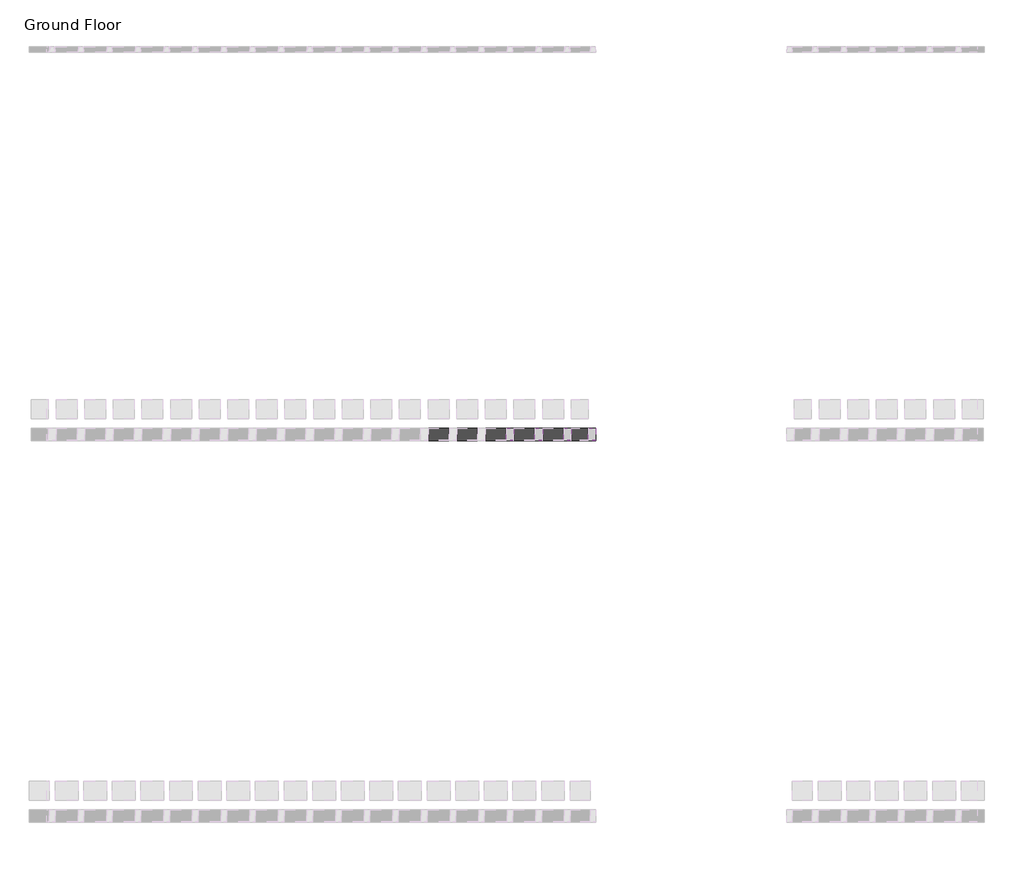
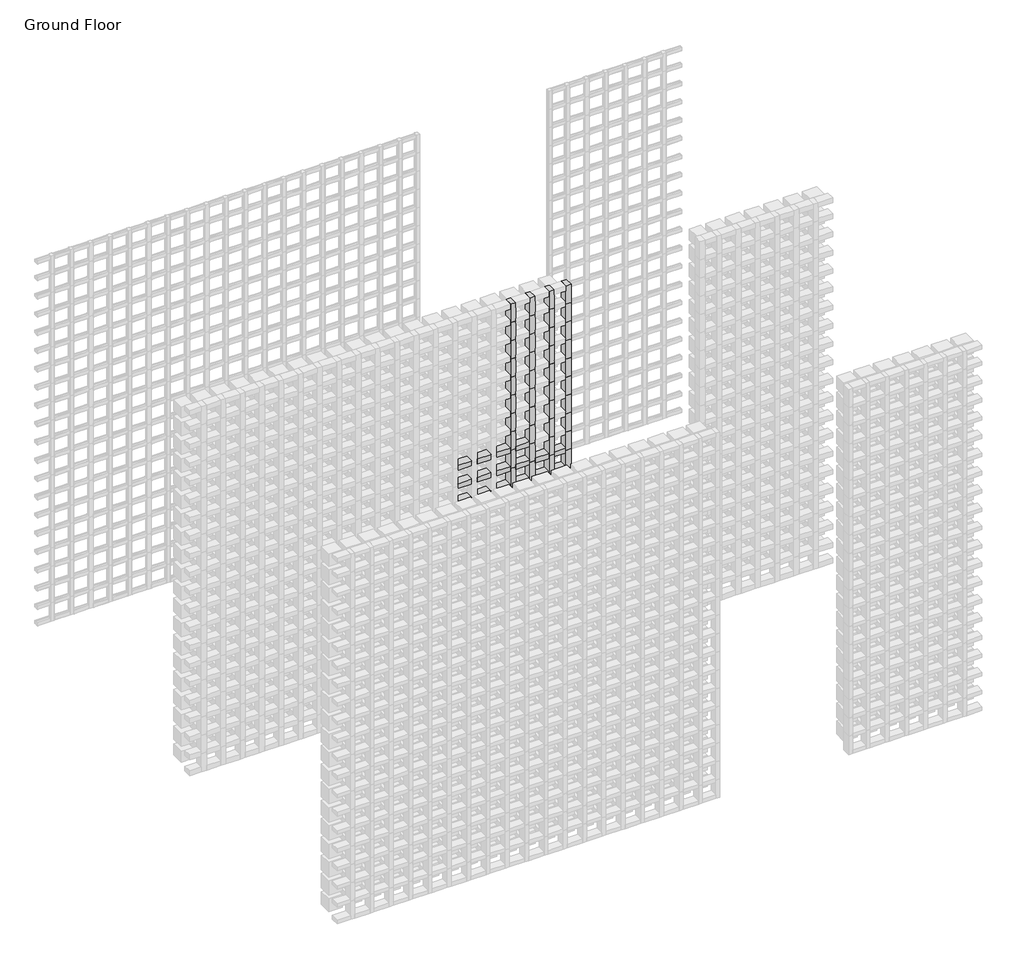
# One storey, part 125 of 350: 144 members.
"""IFC4 building model written with IfcOpenShell, lengths in millimetres."""

from ifc_helpers import new_model, si_unit, origin, place, context, project, spatial, transform, mapped, element, save
from components import rectangular_mullion_d93f5598, rectangular_mullion_655930e9, rectangular_mullion_f7732041, rectangular_mullion_0b6a8654

model = new_model("IFC4")

# Units and contexts
model_context = context("Model", 3, world=origin())
ifc_project = project(units=[si_unit("LENGTHUNIT", "METRE", prefix="MILLI")], contexts=[model_context])

# Site, building, storey
site = spatial("IfcSite", under=ifc_project)
building = spatial("IfcBuilding", under=site)
storey = spatial("IfcBuildingStorey", under=building, Name="Ground Floor", Elevation=0.0)

# Members
placement = place(None, origin())
rectangular_mullion_shape = rectangular_mullion_d93f5598(model_context)
element("IfcMember", 1, ObjectType="Rectangular Mullion : Batten_Timber_Modinex_Austratus_Grid_Fascia_40x65_Blackbutt", at=placement, inside=storey, context=model_context, shape_type="MappedRepresentation", body=[
    mapped(rectangular_mullion_shape, transform((8146.4361642, 40968.2978302, 150.0), x_axis=(0.0, 0.0, 1.0), y_axis=(0.0, -1.0, 0.0), z_axis=(1.0, 0.0, 0.0))),
])
element("IfcMember", 2, ObjectType="Rectangular Mullion : Batten_Timber_Modinex_Austratus_Grid_Fascia_40x65_Blackbutt", at=placement, inside=storey, context=model_context, shape_type="MappedRepresentation", body=[
    mapped(rectangular_mullion_shape, transform((8296.4361642, 40968.2978302, 150.0), x_axis=(0.0, 0.0, 1.0), y_axis=(0.0, -1.0, 0.0), z_axis=(1.0, 0.0, 0.0))),
])
element("IfcMember", 3, ObjectType="Rectangular Mullion : Batten_Timber_Modinex_Austratus_Grid_Fascia_40x65_Blackbutt", at=placement, inside=storey, context=model_context, shape_type="MappedRepresentation", body=[
    mapped(rectangular_mullion_shape, transform((8446.4361642, 40968.2978302, 150.0), x_axis=(0.0, 0.0, 1.0), y_axis=(0.0, -1.0, 0.0), z_axis=(1.0, 0.0, 0.0))),
])
element("IfcMember", 4, ObjectType="Rectangular Mullion : Batten_Timber_Modinex_Austratus_Grid_Fascia_40x65_Blackbutt", at=placement, inside=storey, context=model_context, shape_type="MappedRepresentation", body=[
    mapped(rectangular_mullion_shape, transform((8596.4361642, 40968.2978302, 150.0), x_axis=(0.0, 0.0, 1.0), y_axis=(0.0, -1.0, 0.0), z_axis=(1.0, 0.0, 0.0))),
])
element("IfcMember", 5, ObjectType="Rectangular Mullion : Batten_Timber_Modinex_Austratus_Grid_Fascia_40x65_Blackbutt", at=placement, inside=storey, context=model_context, shape_type="MappedRepresentation", body=[
    mapped(rectangular_mullion_shape, transform((8746.4361642, 40968.2978302, 150.0), x_axis=(0.0, 0.0, 1.0), y_axis=(0.0, -1.0, 0.0), z_axis=(1.0, 0.0, 0.0))),
])
element("IfcMember", 6, ObjectType="Rectangular Mullion : Batten_Timber_Modinex_Austratus_Grid_Fascia_40x65_Blackbutt", at=placement, inside=storey, context=model_context, shape_type="MappedRepresentation", body=[
    mapped(rectangular_mullion_shape, transform((8146.4361642, 40968.2978302, 300.0), x_axis=(0.0, 0.0, 1.0), y_axis=(0.0, -1.0, 0.0), z_axis=(1.0, 0.0, 0.0))),
])
element("IfcMember", 7, ObjectType="Rectangular Mullion : Batten_Timber_Modinex_Austratus_Grid_Fascia_40x65_Blackbutt", at=placement, inside=storey, context=model_context, shape_type="MappedRepresentation", body=[
    mapped(rectangular_mullion_shape, transform((8296.4361642, 40968.2978302, 300.0), x_axis=(0.0, 0.0, 1.0), y_axis=(0.0, -1.0, 0.0), z_axis=(1.0, 0.0, 0.0))),
])
element("IfcMember", 8, ObjectType="Rectangular Mullion : Batten_Timber_Modinex_Austratus_Grid_Fascia_40x65_Blackbutt", at=placement, inside=storey, context=model_context, shape_type="MappedRepresentation", body=[
    mapped(rectangular_mullion_shape, transform((8446.4361642, 40968.2978302, 300.0), x_axis=(0.0, 0.0, 1.0), y_axis=(0.0, -1.0, 0.0), z_axis=(1.0, 0.0, 0.0))),
])
element("IfcMember", 9, ObjectType="Rectangular Mullion : Batten_Timber_Modinex_Austratus_Grid_Fascia_40x65_Blackbutt", at=placement, inside=storey, context=model_context, shape_type="MappedRepresentation", body=[
    mapped(rectangular_mullion_shape, transform((8596.4361642, 40968.2978302, 300.0), x_axis=(0.0, 0.0, 1.0), y_axis=(0.0, -1.0, 0.0), z_axis=(1.0, 0.0, 0.0))),
])
element("IfcMember", 10, ObjectType="Rectangular Mullion : Batten_Timber_Modinex_Austratus_Grid_Fascia_40x65_Blackbutt", at=placement, inside=storey, context=model_context, shape_type="MappedRepresentation", body=[
    mapped(rectangular_mullion_shape, transform((8746.4361642, 40968.2978302, 300.0), x_axis=(0.0, 0.0, 1.0), y_axis=(0.0, -1.0, 0.0), z_axis=(1.0, 0.0, 0.0))),
])
element("IfcMember", 11, ObjectType="Rectangular Mullion : Batten_Timber_Modinex_Austratus_Grid_Fascia_40x65_Blackbutt", at=placement, inside=storey, context=model_context, shape_type="MappedRepresentation", body=[
    mapped(rectangular_mullion_shape, transform((8146.4361642, 40968.2978302, 450.0), x_axis=(0.0, 0.0, 1.0), y_axis=(0.0, -1.0, 0.0), z_axis=(1.0, 0.0, 0.0))),
])
element("IfcMember", 12, ObjectType="Rectangular Mullion : Batten_Timber_Modinex_Austratus_Grid_Fascia_40x65_Blackbutt", at=placement, inside=storey, context=model_context, shape_type="MappedRepresentation", body=[
    mapped(rectangular_mullion_shape, transform((8296.4361642, 40968.2978302, 450.0), x_axis=(0.0, 0.0, 1.0), y_axis=(0.0, -1.0, 0.0), z_axis=(1.0, 0.0, 0.0))),
])
element("IfcMember", 13, ObjectType="Rectangular Mullion : Batten_Timber_Modinex_Austratus_Grid_Fascia_40x65_Blackbutt", at=placement, inside=storey, context=model_context, shape_type="MappedRepresentation", body=[
    mapped(rectangular_mullion_shape, transform((8446.4361642, 40968.2978302, 450.0), x_axis=(0.0, 0.0, 1.0), y_axis=(0.0, -1.0, 0.0), z_axis=(1.0, 0.0, 0.0))),
])
element("IfcMember", 14, ObjectType="Rectangular Mullion : Batten_Timber_Modinex_Austratus_Grid_Fascia_40x65_Blackbutt", at=placement, inside=storey, context=model_context, shape_type="MappedRepresentation", body=[
    mapped(rectangular_mullion_shape, transform((8596.4361642, 40968.2978302, 450.0), x_axis=(0.0, 0.0, 1.0), y_axis=(0.0, -1.0, 0.0), z_axis=(1.0, 0.0, 0.0))),
])
element("IfcMember", 15, ObjectType="Rectangular Mullion : Batten_Timber_Modinex_Austratus_Grid_Fascia_40x65_Blackbutt", at=placement, inside=storey, context=model_context, shape_type="MappedRepresentation", body=[
    mapped(rectangular_mullion_shape, transform((8746.4361642, 40968.2978302, 450.0), x_axis=(0.0, 0.0, 1.0), y_axis=(0.0, -1.0, 0.0), z_axis=(1.0, 0.0, 0.0))),
])
element("IfcMember", 16, ObjectType="Rectangular Mullion : Batten_Timber_Modinex_Austratus_Grid_Fascia_40x65_Blackbutt", at=placement, inside=storey, context=model_context, shape_type="MappedRepresentation", body=[
    mapped(rectangular_mullion_shape, transform((8146.4361642, 40968.2978302, 600.0), x_axis=(0.0, 0.0, 1.0), y_axis=(0.0, -1.0, 0.0), z_axis=(1.0, 0.0, 0.0))),
])
element("IfcMember", 17, ObjectType="Rectangular Mullion : Batten_Timber_Modinex_Austratus_Grid_Fascia_40x65_Blackbutt", at=placement, inside=storey, context=model_context, shape_type="MappedRepresentation", body=[
    mapped(rectangular_mullion_shape, transform((8296.4361642, 40968.2978302, 600.0), x_axis=(0.0, 0.0, 1.0), y_axis=(0.0, -1.0, 0.0), z_axis=(1.0, 0.0, 0.0))),
])
element("IfcMember", 18, ObjectType="Rectangular Mullion : Batten_Timber_Modinex_Austratus_Grid_Fascia_40x65_Blackbutt", at=placement, inside=storey, context=model_context, shape_type="MappedRepresentation", body=[
    mapped(rectangular_mullion_shape, transform((8446.4361642, 40968.2978302, 600.0), x_axis=(0.0, 0.0, 1.0), y_axis=(0.0, -1.0, 0.0), z_axis=(1.0, 0.0, 0.0))),
])
element("IfcMember", 19, ObjectType="Rectangular Mullion : Batten_Timber_Modinex_Austratus_Grid_Fascia_40x65_Blackbutt", at=placement, inside=storey, context=model_context, shape_type="MappedRepresentation", body=[
    mapped(rectangular_mullion_shape, transform((8596.4361642, 40968.2978302, 600.0), x_axis=(0.0, 0.0, 1.0), y_axis=(0.0, -1.0, 0.0), z_axis=(1.0, 0.0, 0.0))),
])
element("IfcMember", 20, ObjectType="Rectangular Mullion : Batten_Timber_Modinex_Austratus_Grid_Fascia_40x65_Blackbutt", at=placement, inside=storey, context=model_context, shape_type="MappedRepresentation", body=[
    mapped(rectangular_mullion_shape, transform((8746.4361642, 40968.2978302, 600.0), x_axis=(0.0, 0.0, 1.0), y_axis=(0.0, -1.0, 0.0), z_axis=(1.0, 0.0, 0.0))),
])
element("IfcMember", 21, ObjectType="Rectangular Mullion : Batten_Timber_Modinex_Austratus_Grid_Fascia_40x65_Blackbutt", at=placement, inside=storey, context=model_context, shape_type="MappedRepresentation", body=[
    mapped(rectangular_mullion_shape, transform((8146.4361642, 40968.2978302, 750.0), x_axis=(0.0, 0.0, 1.0), y_axis=(0.0, -1.0, 0.0), z_axis=(1.0, 0.0, 0.0))),
])
element("IfcMember", 22, ObjectType="Rectangular Mullion : Batten_Timber_Modinex_Austratus_Grid_Fascia_40x65_Blackbutt", at=placement, inside=storey, context=model_context, shape_type="MappedRepresentation", body=[
    mapped(rectangular_mullion_shape, transform((8296.4361642, 40968.2978302, 750.0), x_axis=(0.0, 0.0, 1.0), y_axis=(0.0, -1.0, 0.0), z_axis=(1.0, 0.0, 0.0))),
])
element("IfcMember", 23, ObjectType="Rectangular Mullion : Batten_Timber_Modinex_Austratus_Grid_Fascia_40x65_Blackbutt", at=placement, inside=storey, context=model_context, shape_type="MappedRepresentation", body=[
    mapped(rectangular_mullion_shape, transform((8446.4361642, 40968.2978302, 750.0), x_axis=(0.0, 0.0, 1.0), y_axis=(0.0, -1.0, 0.0), z_axis=(1.0, 0.0, 0.0))),
])
element("IfcMember", 24, ObjectType="Rectangular Mullion : Batten_Timber_Modinex_Austratus_Grid_Fascia_40x65_Blackbutt", at=placement, inside=storey, context=model_context, shape_type="MappedRepresentation", body=[
    mapped(rectangular_mullion_shape, transform((8596.4361642, 40968.2978302, 750.0), x_axis=(0.0, 0.0, 1.0), y_axis=(0.0, -1.0, 0.0), z_axis=(1.0, 0.0, 0.0))),
])
element("IfcMember", 25, ObjectType="Rectangular Mullion : Batten_Timber_Modinex_Austratus_Grid_Fascia_40x65_Blackbutt", at=placement, inside=storey, context=model_context, shape_type="MappedRepresentation", body=[
    mapped(rectangular_mullion_shape, transform((8746.4361642, 40968.2978302, 750.0), x_axis=(0.0, 0.0, 1.0), y_axis=(0.0, -1.0, 0.0), z_axis=(1.0, 0.0, 0.0))),
])
element("IfcMember", 26, ObjectType="Rectangular Mullion : Batten_Timber_Modinex_Austratus_Grid_Fascia_40x65_Blackbutt", at=placement, inside=storey, context=model_context, shape_type="MappedRepresentation", body=[
    mapped(rectangular_mullion_shape, transform((8146.4361642, 40968.2978302, 900.0), x_axis=(0.0, 0.0, 1.0), y_axis=(0.0, -1.0, 0.0), z_axis=(1.0, 0.0, 0.0))),
])
element("IfcMember", 27, ObjectType="Rectangular Mullion : Batten_Timber_Modinex_Austratus_Grid_Fascia_40x65_Blackbutt", at=placement, inside=storey, context=model_context, shape_type="MappedRepresentation", body=[
    mapped(rectangular_mullion_shape, transform((8296.4361642, 40968.2978302, 900.0), x_axis=(0.0, 0.0, 1.0), y_axis=(0.0, -1.0, 0.0), z_axis=(1.0, 0.0, 0.0))),
])
element("IfcMember", 28, ObjectType="Rectangular Mullion : Batten_Timber_Modinex_Austratus_Grid_Fascia_40x65_Blackbutt", at=placement, inside=storey, context=model_context, shape_type="MappedRepresentation", body=[
    mapped(rectangular_mullion_shape, transform((8446.4361642, 40968.2978302, 900.0), x_axis=(0.0, 0.0, 1.0), y_axis=(0.0, -1.0, 0.0), z_axis=(1.0, 0.0, 0.0))),
])
element("IfcMember", 29, ObjectType="Rectangular Mullion : Batten_Timber_Modinex_Austratus_Grid_Fascia_40x65_Blackbutt", at=placement, inside=storey, context=model_context, shape_type="MappedRepresentation", body=[
    mapped(rectangular_mullion_shape, transform((8596.4361642, 40968.2978302, 900.0), x_axis=(0.0, 0.0, 1.0), y_axis=(0.0, -1.0, 0.0), z_axis=(1.0, 0.0, 0.0))),
])
element("IfcMember", 30, ObjectType="Rectangular Mullion : Batten_Timber_Modinex_Austratus_Grid_Fascia_40x65_Blackbutt", at=placement, inside=storey, context=model_context, shape_type="MappedRepresentation", body=[
    mapped(rectangular_mullion_shape, transform((8746.4361642, 40968.2978302, 900.0), x_axis=(0.0, 0.0, 1.0), y_axis=(0.0, -1.0, 0.0), z_axis=(1.0, 0.0, 0.0))),
])
element("IfcMember", 31, ObjectType="Rectangular Mullion : Batten_Timber_Modinex_Austratus_Grid_Fascia_40x65_Blackbutt", at=placement, inside=storey, context=model_context, shape_type="MappedRepresentation", body=[
    mapped(rectangular_mullion_shape, transform((8146.4361642, 40968.2978302, 1050.0), x_axis=(0.0, 0.0, 1.0), y_axis=(0.0, -1.0, 0.0), z_axis=(1.0, 0.0, 0.0))),
])
element("IfcMember", 32, ObjectType="Rectangular Mullion : Batten_Timber_Modinex_Austratus_Grid_Fascia_40x65_Blackbutt", at=placement, inside=storey, context=model_context, shape_type="MappedRepresentation", body=[
    mapped(rectangular_mullion_shape, transform((8296.4361642, 40968.2978302, 1050.0), x_axis=(0.0, 0.0, 1.0), y_axis=(0.0, -1.0, 0.0), z_axis=(1.0, 0.0, 0.0))),
])
element("IfcMember", 33, ObjectType="Rectangular Mullion : Batten_Timber_Modinex_Austratus_Grid_Fascia_40x65_Blackbutt", at=placement, inside=storey, context=model_context, shape_type="MappedRepresentation", body=[
    mapped(rectangular_mullion_shape, transform((8446.4361642, 40968.2978302, 1050.0), x_axis=(0.0, 0.0, 1.0), y_axis=(0.0, -1.0, 0.0), z_axis=(1.0, 0.0, 0.0))),
])
element("IfcMember", 34, ObjectType="Rectangular Mullion : Batten_Timber_Modinex_Austratus_Grid_Fascia_40x65_Blackbutt", at=placement, inside=storey, context=model_context, shape_type="MappedRepresentation", body=[
    mapped(rectangular_mullion_shape, transform((8596.4361642, 40968.2978302, 1050.0), x_axis=(0.0, 0.0, 1.0), y_axis=(0.0, -1.0, 0.0), z_axis=(1.0, 0.0, 0.0))),
])
element("IfcMember", 35, ObjectType="Rectangular Mullion : Batten_Timber_Modinex_Austratus_Grid_Fascia_40x65_Blackbutt", at=placement, inside=storey, context=model_context, shape_type="MappedRepresentation", body=[
    mapped(rectangular_mullion_shape, transform((8746.4361642, 40968.2978302, 1050.0), x_axis=(0.0, 0.0, 1.0), y_axis=(0.0, -1.0, 0.0), z_axis=(1.0, 0.0, 0.0))),
])
element("IfcMember", 36, ObjectType="Rectangular Mullion : Batten_Timber_Modinex_Austratus_Grid_Fascia_40x65_Blackbutt", at=placement, inside=storey, context=model_context, shape_type="MappedRepresentation", body=[
    mapped(rectangular_mullion_shape, transform((8146.4361642, 40968.2978302, 1200.0), x_axis=(0.0, 0.0, 1.0), y_axis=(0.0, -1.0, 0.0), z_axis=(1.0, 0.0, 0.0))),
])
element("IfcMember", 37, ObjectType="Rectangular Mullion : Batten_Timber_Modinex_Austratus_Grid_Fascia_40x65_Blackbutt", at=placement, inside=storey, context=model_context, shape_type="MappedRepresentation", body=[
    mapped(rectangular_mullion_shape, transform((8296.4361642, 40968.2978302, 1200.0), x_axis=(0.0, 0.0, 1.0), y_axis=(0.0, -1.0, 0.0), z_axis=(1.0, 0.0, 0.0))),
])
element("IfcMember", 38, ObjectType="Rectangular Mullion : Batten_Timber_Modinex_Austratus_Grid_Fascia_40x65_Blackbutt", at=placement, inside=storey, context=model_context, shape_type="MappedRepresentation", body=[
    mapped(rectangular_mullion_shape, transform((8446.4361642, 40968.2978302, 1200.0), x_axis=(0.0, 0.0, 1.0), y_axis=(0.0, -1.0, 0.0), z_axis=(1.0, 0.0, 0.0))),
])
element("IfcMember", 39, ObjectType="Rectangular Mullion : Batten_Timber_Modinex_Austratus_Grid_Fascia_40x65_Blackbutt", at=placement, inside=storey, context=model_context, shape_type="MappedRepresentation", body=[
    mapped(rectangular_mullion_shape, transform((8596.4361642, 40968.2978302, 1200.0), x_axis=(0.0, 0.0, 1.0), y_axis=(0.0, -1.0, 0.0), z_axis=(1.0, 0.0, 0.0))),
])
element("IfcMember", 40, ObjectType="Rectangular Mullion : Batten_Timber_Modinex_Austratus_Grid_Fascia_40x65_Blackbutt", at=placement, inside=storey, context=model_context, shape_type="MappedRepresentation", body=[
    mapped(rectangular_mullion_shape, transform((8746.4361642, 40968.2978302, 1200.0), x_axis=(0.0, 0.0, 1.0), y_axis=(0.0, -1.0, 0.0), z_axis=(1.0, 0.0, 0.0))),
])
element("IfcMember", 41, ObjectType="Rectangular Mullion : Batten_Timber_Modinex_Austratus_Grid_Fascia_40x65_Blackbutt", at=placement, inside=storey, context=model_context, shape_type="MappedRepresentation", body=[
    mapped(rectangular_mullion_shape, transform((8146.4361642, 40968.2978302, 1350.0), x_axis=(0.0, 0.0, 1.0), y_axis=(0.0, -1.0, 0.0), z_axis=(1.0, 0.0, 0.0))),
])
element("IfcMember", 42, ObjectType="Rectangular Mullion : Batten_Timber_Modinex_Austratus_Grid_Fascia_40x65_Blackbutt", at=placement, inside=storey, context=model_context, shape_type="MappedRepresentation", body=[
    mapped(rectangular_mullion_shape, transform((8296.4361642, 40968.2978302, 1350.0), x_axis=(0.0, 0.0, 1.0), y_axis=(0.0, -1.0, 0.0), z_axis=(1.0, 0.0, 0.0))),
])
element("IfcMember", 43, ObjectType="Rectangular Mullion : Batten_Timber_Modinex_Austratus_Grid_Fascia_40x65_Blackbutt", at=placement, inside=storey, context=model_context, shape_type="MappedRepresentation", body=[
    mapped(rectangular_mullion_shape, transform((8446.4361642, 40968.2978302, 1350.0), x_axis=(0.0, 0.0, 1.0), y_axis=(0.0, -1.0, 0.0), z_axis=(1.0, 0.0, 0.0))),
])
element("IfcMember", 44, ObjectType="Rectangular Mullion : Batten_Timber_Modinex_Austratus_Grid_Fascia_40x65_Blackbutt", at=placement, inside=storey, context=model_context, shape_type="MappedRepresentation", body=[
    mapped(rectangular_mullion_shape, transform((8596.4361642, 40968.2978302, 1350.0), x_axis=(0.0, 0.0, 1.0), y_axis=(0.0, -1.0, 0.0), z_axis=(1.0, 0.0, 0.0))),
])
element("IfcMember", 45, ObjectType="Rectangular Mullion : Batten_Timber_Modinex_Austratus_Grid_Fascia_40x65_Blackbutt", at=placement, inside=storey, context=model_context, shape_type="MappedRepresentation", body=[
    mapped(rectangular_mullion_shape, transform((8746.4361642, 40968.2978302, 1350.0), x_axis=(0.0, 0.0, 1.0), y_axis=(0.0, -1.0, 0.0), z_axis=(1.0, 0.0, 0.0))),
])
element("IfcMember", 46, ObjectType="Rectangular Mullion : Batten_Timber_Modinex_Austratus_Grid_Fascia_40x65_Blackbutt", at=placement, inside=storey, context=model_context, shape_type="MappedRepresentation", body=[
    mapped(rectangular_mullion_shape, transform((8146.4361642, 40968.2978302, 1500.0), x_axis=(0.0, 0.0, 1.0), y_axis=(0.0, -1.0, 0.0), z_axis=(1.0, 0.0, 0.0))),
])
element("IfcMember", 47, ObjectType="Rectangular Mullion : Batten_Timber_Modinex_Austratus_Grid_Fascia_40x65_Blackbutt", at=placement, inside=storey, context=model_context, shape_type="MappedRepresentation", body=[
    mapped(rectangular_mullion_shape, transform((8296.4361642, 40968.2978302, 1500.0), x_axis=(0.0, 0.0, 1.0), y_axis=(0.0, -1.0, 0.0), z_axis=(1.0, 0.0, 0.0))),
])
element("IfcMember", 48, ObjectType="Rectangular Mullion : Batten_Timber_Modinex_Austratus_Grid_Fascia_40x65_Blackbutt", at=placement, inside=storey, context=model_context, shape_type="MappedRepresentation", body=[
    mapped(rectangular_mullion_shape, transform((8446.4361642, 40968.2978302, 1500.0), x_axis=(0.0, 0.0, 1.0), y_axis=(0.0, -1.0, 0.0), z_axis=(1.0, 0.0, 0.0))),
])
element("IfcMember", 49, ObjectType="Rectangular Mullion : Batten_Timber_Modinex_Austratus_Grid_Fascia_40x65_Blackbutt", at=placement, inside=storey, context=model_context, shape_type="MappedRepresentation", body=[
    mapped(rectangular_mullion_shape, transform((8596.4361642, 40968.2978302, 1500.0), x_axis=(0.0, 0.0, 1.0), y_axis=(0.0, -1.0, 0.0), z_axis=(1.0, 0.0, 0.0))),
])
element("IfcMember", 50, ObjectType="Rectangular Mullion : Batten_Timber_Modinex_Austratus_Grid_Fascia_40x65_Blackbutt", at=placement, inside=storey, context=model_context, shape_type="MappedRepresentation", body=[
    mapped(rectangular_mullion_shape, transform((8746.4361642, 40968.2978302, 1500.0), x_axis=(0.0, 0.0, 1.0), y_axis=(0.0, -1.0, 0.0), z_axis=(1.0, 0.0, 0.0))),
])
element("IfcMember", 51, ObjectType="Rectangular Mullion : Batten_Timber_Modinex_Austratus_Grid_Fascia_40x65_Blackbutt", at=placement, inside=storey, context=model_context, shape_type="MappedRepresentation", body=[
    mapped(rectangular_mullion_shape, transform((8146.4361642, 40968.2978302, 1650.0), x_axis=(0.0, 0.0, 1.0), y_axis=(0.0, -1.0, 0.0), z_axis=(1.0, 0.0, 0.0))),
])
element("IfcMember", 52, ObjectType="Rectangular Mullion : Batten_Timber_Modinex_Austratus_Grid_Fascia_40x65_Blackbutt", at=placement, inside=storey, context=model_context, shape_type="MappedRepresentation", body=[
    mapped(rectangular_mullion_shape, transform((8296.4361642, 40968.2978302, 1650.0), x_axis=(0.0, 0.0, 1.0), y_axis=(0.0, -1.0, 0.0), z_axis=(1.0, 0.0, 0.0))),
])
element("IfcMember", 53, ObjectType="Rectangular Mullion : Batten_Timber_Modinex_Austratus_Grid_Fascia_40x65_Blackbutt", at=placement, inside=storey, context=model_context, shape_type="MappedRepresentation", body=[
    mapped(rectangular_mullion_shape, transform((8446.4361642, 40968.2978302, 1650.0), x_axis=(0.0, 0.0, 1.0), y_axis=(0.0, -1.0, 0.0), z_axis=(1.0, 0.0, 0.0))),
])
element("IfcMember", 54, ObjectType="Rectangular Mullion : Batten_Timber_Modinex_Austratus_Grid_Fascia_40x65_Blackbutt", at=placement, inside=storey, context=model_context, shape_type="MappedRepresentation", body=[
    mapped(rectangular_mullion_shape, transform((8596.4361642, 40968.2978302, 1650.0), x_axis=(0.0, 0.0, 1.0), y_axis=(0.0, -1.0, 0.0), z_axis=(1.0, 0.0, 0.0))),
])
element("IfcMember", 55, ObjectType="Rectangular Mullion : Batten_Timber_Modinex_Austratus_Grid_Fascia_40x65_Blackbutt", at=placement, inside=storey, context=model_context, shape_type="MappedRepresentation", body=[
    mapped(rectangular_mullion_shape, transform((8746.4361642, 40968.2978302, 1650.0), x_axis=(0.0, 0.0, 1.0), y_axis=(0.0, -1.0, 0.0), z_axis=(1.0, 0.0, 0.0))),
])
element("IfcMember", 56, ObjectType="Rectangular Mullion : Batten_Timber_Modinex_Austratus_Grid_Fascia_40x65_Blackbutt", at=placement, inside=storey, context=model_context, shape_type="MappedRepresentation", body=[
    mapped(rectangular_mullion_shape, transform((8146.4361642, 40968.2978302, 1800.0), x_axis=(0.0, 0.0, 1.0), y_axis=(0.0, -1.0, 0.0), z_axis=(1.0, 0.0, 0.0))),
])
element("IfcMember", 57, ObjectType="Rectangular Mullion : Batten_Timber_Modinex_Austratus_Grid_Fascia_40x65_Blackbutt", at=placement, inside=storey, context=model_context, shape_type="MappedRepresentation", body=[
    mapped(rectangular_mullion_shape, transform((8296.4361642, 40968.2978302, 1800.0), x_axis=(0.0, 0.0, 1.0), y_axis=(0.0, -1.0, 0.0), z_axis=(1.0, 0.0, 0.0))),
])
element("IfcMember", 58, ObjectType="Rectangular Mullion : Batten_Timber_Modinex_Austratus_Grid_Fascia_40x65_Blackbutt", at=placement, inside=storey, context=model_context, shape_type="MappedRepresentation", body=[
    mapped(rectangular_mullion_shape, transform((8446.4361642, 40968.2978302, 1800.0), x_axis=(0.0, 0.0, 1.0), y_axis=(0.0, -1.0, 0.0), z_axis=(1.0, 0.0, 0.0))),
])
element("IfcMember", 59, ObjectType="Rectangular Mullion : Batten_Timber_Modinex_Austratus_Grid_Fascia_40x65_Blackbutt", at=placement, inside=storey, context=model_context, shape_type="MappedRepresentation", body=[
    mapped(rectangular_mullion_shape, transform((8596.4361642, 40968.2978302, 1800.0), x_axis=(0.0, 0.0, 1.0), y_axis=(0.0, -1.0, 0.0), z_axis=(1.0, 0.0, 0.0))),
])
rectangular_mullion_2_shape = rectangular_mullion_655930e9(model_context)
element("IfcMember", 60, ObjectType="Rectangular Mullion : Batten_Timber_Modinex_Austratus_Grid_Fascia_40x65_Blackbutt", at=placement, inside=storey, context=model_context, shape_type="MappedRepresentation", body=[
    mapped(rectangular_mullion_2_shape, transform((8466.4361642, 40968.2978302, 450.0), x_axis=(1.0, 0.0, 0.0), y_axis=(0.0, -1.0, 0.0), z_axis=(0.0, 0.0, -1.0))),
])
element("IfcMember", 61, ObjectType="Rectangular Mullion : Batten_Timber_Modinex_Austratus_Grid_Fascia_40x65_Blackbutt", at=placement, inside=storey, context=model_context, shape_type="MappedRepresentation", body=[
    mapped(rectangular_mullion_2_shape, transform((8466.4361642, 40968.2978302, 600.0), x_axis=(1.0, 0.0, 0.0), y_axis=(0.0, -1.0, 0.0), z_axis=(0.0, 0.0, -1.0))),
])
element("IfcMember", 62, ObjectType="Rectangular Mullion : Batten_Timber_Modinex_Austratus_Grid_Fascia_40x65_Blackbutt", at=placement, inside=storey, context=model_context, shape_type="MappedRepresentation", body=[
    mapped(rectangular_mullion_2_shape, transform((8466.4361642, 40968.2978302, 750.0), x_axis=(1.0, 0.0, 0.0), y_axis=(0.0, -1.0, 0.0), z_axis=(0.0, 0.0, -1.0))),
])
element("IfcMember", 63, ObjectType="Rectangular Mullion : Batten_Timber_Modinex_Austratus_Grid_Fascia_40x65_Blackbutt", at=placement, inside=storey, context=model_context, shape_type="MappedRepresentation", body=[
    mapped(rectangular_mullion_2_shape, transform((8466.4361642, 40968.2978302, 900.0), x_axis=(1.0, 0.0, 0.0), y_axis=(0.0, -1.0, 0.0), z_axis=(0.0, 0.0, -1.0))),
])
element("IfcMember", 64, ObjectType="Rectangular Mullion : Batten_Timber_Modinex_Austratus_Grid_Fascia_40x65_Blackbutt", at=placement, inside=storey, context=model_context, shape_type="MappedRepresentation", body=[
    mapped(rectangular_mullion_2_shape, transform((8466.4361642, 40968.2978302, 1050.0), x_axis=(1.0, 0.0, 0.0), y_axis=(0.0, -1.0, 0.0), z_axis=(0.0, 0.0, -1.0))),
])
element("IfcMember", 65, ObjectType="Rectangular Mullion : Batten_Timber_Modinex_Austratus_Grid_Fascia_40x65_Blackbutt", at=placement, inside=storey, context=model_context, shape_type="MappedRepresentation", body=[
    mapped(rectangular_mullion_2_shape, transform((8466.4361642, 40968.2978302, 1200.0), x_axis=(1.0, 0.0, 0.0), y_axis=(0.0, -1.0, 0.0), z_axis=(0.0, 0.0, -1.0))),
])
element("IfcMember", 66, ObjectType="Rectangular Mullion : Batten_Timber_Modinex_Austratus_Grid_Fascia_40x65_Blackbutt", at=placement, inside=storey, context=model_context, shape_type="MappedRepresentation", body=[
    mapped(rectangular_mullion_2_shape, transform((8466.4361642, 40968.2978302, 1350.0), x_axis=(1.0, 0.0, 0.0), y_axis=(0.0, -1.0, 0.0), z_axis=(0.0, 0.0, -1.0))),
])
element("IfcMember", 67, ObjectType="Rectangular Mullion : Batten_Timber_Modinex_Austratus_Grid_Fascia_40x65_Blackbutt", at=placement, inside=storey, context=model_context, shape_type="MappedRepresentation", body=[
    mapped(rectangular_mullion_2_shape, transform((8466.4361642, 40968.2978302, 1500.0), x_axis=(1.0, 0.0, 0.0), y_axis=(0.0, -1.0, 0.0), z_axis=(0.0, 0.0, -1.0))),
])
element("IfcMember", 68, ObjectType="Rectangular Mullion : Batten_Timber_Modinex_Austratus_Grid_Fascia_40x65_Blackbutt", at=placement, inside=storey, context=model_context, shape_type="MappedRepresentation", body=[
    mapped(rectangular_mullion_2_shape, transform((8466.4361642, 40968.2978302, 1650.0), x_axis=(1.0, 0.0, 0.0), y_axis=(0.0, -1.0, 0.0), z_axis=(0.0, 0.0, -1.0))),
])
element("IfcMember", 69, ObjectType="Rectangular Mullion : Batten_Timber_Modinex_Austratus_Grid_Fascia_40x65_Blackbutt", at=placement, inside=storey, context=model_context, shape_type="MappedRepresentation", body=[
    mapped(rectangular_mullion_2_shape, transform((8466.4361642, 40968.2978302, 1800.0), x_axis=(1.0, 0.0, 0.0), y_axis=(0.0, -1.0, 0.0), z_axis=(0.0, 0.0, -1.0))),
])
element("IfcMember", 70, ObjectType="Rectangular Mullion : Batten_Timber_Modinex_Austratus_Grid_Fascia_40x65_Blackbutt", at=placement, inside=storey, context=model_context, shape_type="MappedRepresentation", body=[
    mapped(rectangular_mullion_2_shape, transform((8466.4361642, 40968.2978302, 1950.0), x_axis=(1.0, 0.0, 0.0), y_axis=(0.0, -1.0, 0.0), z_axis=(0.0, 0.0, -1.0))),
])
element("IfcMember", 71, ObjectType="Rectangular Mullion : Batten_Timber_Modinex_Austratus_Grid_Fascia_40x65_Blackbutt", at=placement, inside=storey, context=model_context, shape_type="MappedRepresentation", body=[
    mapped(rectangular_mullion_2_shape, transform((8466.4361642, 40968.2978302, 2100.0), x_axis=(1.0, 0.0, 0.0), y_axis=(0.0, -1.0, 0.0), z_axis=(0.0, 0.0, -1.0))),
])
element("IfcMember", 72, ObjectType="Rectangular Mullion : Batten_Timber_Modinex_Austratus_Grid_Fascia_40x65_Blackbutt", at=placement, inside=storey, context=model_context, shape_type="MappedRepresentation", body=[
    mapped(rectangular_mullion_2_shape, transform((8466.4361642, 40968.2978302, 2250.0), x_axis=(1.0, 0.0, 0.0), y_axis=(0.0, -1.0, 0.0), z_axis=(0.0, 0.0, -1.0))),
])
element("IfcMember", 73, ObjectType="Rectangular Mullion : Batten_Timber_Modinex_Austratus_Grid_Fascia_40x65_Blackbutt", at=placement, inside=storey, context=model_context, shape_type="MappedRepresentation", body=[
    mapped(rectangular_mullion_2_shape, transform((8466.4361642, 40968.2978302, 2400.0), x_axis=(1.0, 0.0, 0.0), y_axis=(0.0, -1.0, 0.0), z_axis=(0.0, 0.0, -1.0))),
])
element("IfcMember", 74, ObjectType="Rectangular Mullion : Batten_Timber_Modinex_Austratus_Grid_Fascia_40x65_Blackbutt", at=placement, inside=storey, context=model_context, shape_type="MappedRepresentation", body=[
    mapped(rectangular_mullion_2_shape, transform((8466.4361642, 40968.2978302, 2550.0), x_axis=(1.0, 0.0, 0.0), y_axis=(0.0, -1.0, 0.0), z_axis=(0.0, 0.0, -1.0))),
])
element("IfcMember", 75, ObjectType="Rectangular Mullion : Batten_Timber_Modinex_Austratus_Grid_Fascia_40x65_Blackbutt", at=placement, inside=storey, context=model_context, shape_type="MappedRepresentation", body=[
    mapped(rectangular_mullion_2_shape, transform((8466.4361642, 40968.2978302, 2700.0), x_axis=(1.0, 0.0, 0.0), y_axis=(0.0, -1.0, 0.0), z_axis=(0.0, 0.0, -1.0))),
])
element("IfcMember", 76, ObjectType="Rectangular Mullion : Batten_Timber_Modinex_Austratus_Grid_Fascia_40x65_Blackbutt", at=placement, inside=storey, context=model_context, shape_type="MappedRepresentation", body=[
    mapped(rectangular_mullion_2_shape, transform((8616.4361642, 40968.2978302, 150.0), x_axis=(1.0, 0.0, 0.0), y_axis=(0.0, -1.0, 0.0), z_axis=(0.0, 0.0, -1.0))),
])
element("IfcMember", 77, ObjectType="Rectangular Mullion : Batten_Timber_Modinex_Austratus_Grid_Fascia_40x65_Blackbutt", at=placement, inside=storey, context=model_context, shape_type="MappedRepresentation", body=[
    mapped(rectangular_mullion_2_shape, transform((8616.4361642, 40968.2978302, 300.0), x_axis=(1.0, 0.0, 0.0), y_axis=(0.0, -1.0, 0.0), z_axis=(0.0, 0.0, -1.0))),
])
element("IfcMember", 78, ObjectType="Rectangular Mullion : Batten_Timber_Modinex_Austratus_Grid_Fascia_40x65_Blackbutt", at=placement, inside=storey, context=model_context, shape_type="MappedRepresentation", body=[
    mapped(rectangular_mullion_2_shape, transform((8616.4361642, 40968.2978302, 450.0), x_axis=(1.0, 0.0, 0.0), y_axis=(0.0, -1.0, 0.0), z_axis=(0.0, 0.0, -1.0))),
])
element("IfcMember", 79, ObjectType="Rectangular Mullion : Batten_Timber_Modinex_Austratus_Grid_Fascia_40x65_Blackbutt", at=placement, inside=storey, context=model_context, shape_type="MappedRepresentation", body=[
    mapped(rectangular_mullion_2_shape, transform((8616.4361642, 40968.2978302, 600.0), x_axis=(1.0, 0.0, 0.0), y_axis=(0.0, -1.0, 0.0), z_axis=(0.0, 0.0, -1.0))),
])
element("IfcMember", 80, ObjectType="Rectangular Mullion : Batten_Timber_Modinex_Austratus_Grid_Fascia_40x65_Blackbutt", at=placement, inside=storey, context=model_context, shape_type="MappedRepresentation", body=[
    mapped(rectangular_mullion_2_shape, transform((8616.4361642, 40968.2978302, 750.0), x_axis=(1.0, 0.0, 0.0), y_axis=(0.0, -1.0, 0.0), z_axis=(0.0, 0.0, -1.0))),
])
element("IfcMember", 81, ObjectType="Rectangular Mullion : Batten_Timber_Modinex_Austratus_Grid_Fascia_40x65_Blackbutt", at=placement, inside=storey, context=model_context, shape_type="MappedRepresentation", body=[
    mapped(rectangular_mullion_2_shape, transform((8616.4361642, 40968.2978302, 900.0), x_axis=(1.0, 0.0, 0.0), y_axis=(0.0, -1.0, 0.0), z_axis=(0.0, 0.0, -1.0))),
])
element("IfcMember", 82, ObjectType="Rectangular Mullion : Batten_Timber_Modinex_Austratus_Grid_Fascia_40x65_Blackbutt", at=placement, inside=storey, context=model_context, shape_type="MappedRepresentation", body=[
    mapped(rectangular_mullion_2_shape, transform((8616.4361642, 40968.2978302, 1050.0), x_axis=(1.0, 0.0, 0.0), y_axis=(0.0, -1.0, 0.0), z_axis=(0.0, 0.0, -1.0))),
])
element("IfcMember", 83, ObjectType="Rectangular Mullion : Batten_Timber_Modinex_Austratus_Grid_Fascia_40x65_Blackbutt", at=placement, inside=storey, context=model_context, shape_type="MappedRepresentation", body=[
    mapped(rectangular_mullion_2_shape, transform((8616.4361642, 40968.2978302, 1200.0), x_axis=(1.0, 0.0, 0.0), y_axis=(0.0, -1.0, 0.0), z_axis=(0.0, 0.0, -1.0))),
])
element("IfcMember", 84, ObjectType="Rectangular Mullion : Batten_Timber_Modinex_Austratus_Grid_Fascia_40x65_Blackbutt", at=placement, inside=storey, context=model_context, shape_type="MappedRepresentation", body=[
    mapped(rectangular_mullion_2_shape, transform((8616.4361642, 40968.2978302, 1350.0), x_axis=(1.0, 0.0, 0.0), y_axis=(0.0, -1.0, 0.0), z_axis=(0.0, 0.0, -1.0))),
])
element("IfcMember", 85, ObjectType="Rectangular Mullion : Batten_Timber_Modinex_Austratus_Grid_Fascia_40x65_Blackbutt", at=placement, inside=storey, context=model_context, shape_type="MappedRepresentation", body=[
    mapped(rectangular_mullion_2_shape, transform((8616.4361642, 40968.2978302, 1500.0), x_axis=(1.0, 0.0, 0.0), y_axis=(0.0, -1.0, 0.0), z_axis=(0.0, 0.0, -1.0))),
])
element("IfcMember", 86, ObjectType="Rectangular Mullion : Batten_Timber_Modinex_Austratus_Grid_Fascia_40x65_Blackbutt", at=placement, inside=storey, context=model_context, shape_type="MappedRepresentation", body=[
    mapped(rectangular_mullion_2_shape, transform((8616.4361642, 40968.2978302, 1650.0), x_axis=(1.0, 0.0, 0.0), y_axis=(0.0, -1.0, 0.0), z_axis=(0.0, 0.0, -1.0))),
])
element("IfcMember", 87, ObjectType="Rectangular Mullion : Batten_Timber_Modinex_Austratus_Grid_Fascia_40x65_Blackbutt", at=placement, inside=storey, context=model_context, shape_type="MappedRepresentation", body=[
    mapped(rectangular_mullion_2_shape, transform((8616.4361642, 40968.2978302, 1800.0), x_axis=(1.0, 0.0, 0.0), y_axis=(0.0, -1.0, 0.0), z_axis=(0.0, 0.0, -1.0))),
])
element("IfcMember", 88, ObjectType="Rectangular Mullion : Batten_Timber_Modinex_Austratus_Grid_Fascia_40x65_Blackbutt", at=placement, inside=storey, context=model_context, shape_type="MappedRepresentation", body=[
    mapped(rectangular_mullion_2_shape, transform((8616.4361642, 40968.2978302, 1950.0), x_axis=(1.0, 0.0, 0.0), y_axis=(0.0, -1.0, 0.0), z_axis=(0.0, 0.0, -1.0))),
])
element("IfcMember", 89, ObjectType="Rectangular Mullion : Batten_Timber_Modinex_Austratus_Grid_Fascia_40x65_Blackbutt", at=placement, inside=storey, context=model_context, shape_type="MappedRepresentation", body=[
    mapped(rectangular_mullion_2_shape, transform((8616.4361642, 40968.2978302, 2100.0), x_axis=(1.0, 0.0, 0.0), y_axis=(0.0, -1.0, 0.0), z_axis=(0.0, 0.0, -1.0))),
])
element("IfcMember", 90, ObjectType="Rectangular Mullion : Batten_Timber_Modinex_Austratus_Grid_Fascia_40x65_Blackbutt", at=placement, inside=storey, context=model_context, shape_type="MappedRepresentation", body=[
    mapped(rectangular_mullion_2_shape, transform((8616.4361642, 40968.2978302, 2250.0), x_axis=(1.0, 0.0, 0.0), y_axis=(0.0, -1.0, 0.0), z_axis=(0.0, 0.0, -1.0))),
])
element("IfcMember", 91, ObjectType="Rectangular Mullion : Batten_Timber_Modinex_Austratus_Grid_Fascia_40x65_Blackbutt", at=placement, inside=storey, context=model_context, shape_type="MappedRepresentation", body=[
    mapped(rectangular_mullion_2_shape, transform((8616.4361642, 40968.2978302, 2400.0), x_axis=(1.0, 0.0, 0.0), y_axis=(0.0, -1.0, 0.0), z_axis=(0.0, 0.0, -1.0))),
])
element("IfcMember", 92, ObjectType="Rectangular Mullion : Batten_Timber_Modinex_Austratus_Grid_Fascia_40x65_Blackbutt", at=placement, inside=storey, context=model_context, shape_type="MappedRepresentation", body=[
    mapped(rectangular_mullion_2_shape, transform((8616.4361642, 40968.2978302, 2550.0), x_axis=(1.0, 0.0, 0.0), y_axis=(0.0, -1.0, 0.0), z_axis=(0.0, 0.0, -1.0))),
])
element("IfcMember", 93, ObjectType="Rectangular Mullion : Batten_Timber_Modinex_Austratus_Grid_Fascia_40x65_Blackbutt", at=placement, inside=storey, context=model_context, shape_type="MappedRepresentation", body=[
    mapped(rectangular_mullion_2_shape, transform((8616.4361642, 40968.2978302, 2700.0), x_axis=(1.0, 0.0, 0.0), y_axis=(0.0, -1.0, 0.0), z_axis=(0.0, 0.0, -1.0))),
])
element("IfcMember", 94, ObjectType="Rectangular Mullion : Batten_Timber_Modinex_Austratus_Grid_Fascia_40x65_Blackbutt", at=placement, inside=storey, context=model_context, shape_type="MappedRepresentation", body=[
    mapped(rectangular_mullion_2_shape, transform((8766.4361642, 40968.2978302, 150.0), x_axis=(1.0, 0.0, 0.0), y_axis=(0.0, -1.0, 0.0), z_axis=(0.0, 0.0, -1.0))),
])
element("IfcMember", 95, ObjectType="Rectangular Mullion : Batten_Timber_Modinex_Austratus_Grid_Fascia_40x65_Blackbutt", at=placement, inside=storey, context=model_context, shape_type="MappedRepresentation", body=[
    mapped(rectangular_mullion_2_shape, transform((8766.4361642, 40968.2978302, 300.0), x_axis=(1.0, 0.0, 0.0), y_axis=(0.0, -1.0, 0.0), z_axis=(0.0, 0.0, -1.0))),
])
element("IfcMember", 96, ObjectType="Rectangular Mullion : Batten_Timber_Modinex_Austratus_Grid_Fascia_40x65_Blackbutt", at=placement, inside=storey, context=model_context, shape_type="MappedRepresentation", body=[
    mapped(rectangular_mullion_2_shape, transform((8766.4361642, 40968.2978302, 450.0), x_axis=(1.0, 0.0, 0.0), y_axis=(0.0, -1.0, 0.0), z_axis=(0.0, 0.0, -1.0))),
])
element("IfcMember", 97, ObjectType="Rectangular Mullion : Batten_Timber_Modinex_Austratus_Grid_Fascia_40x65_Blackbutt", at=placement, inside=storey, context=model_context, shape_type="MappedRepresentation", body=[
    mapped(rectangular_mullion_2_shape, transform((8766.4361642, 40968.2978302, 600.0), x_axis=(1.0, 0.0, 0.0), y_axis=(0.0, -1.0, 0.0), z_axis=(0.0, 0.0, -1.0))),
])
element("IfcMember", 98, ObjectType="Rectangular Mullion : Batten_Timber_Modinex_Austratus_Grid_Fascia_40x65_Blackbutt", at=placement, inside=storey, context=model_context, shape_type="MappedRepresentation", body=[
    mapped(rectangular_mullion_2_shape, transform((8766.4361642, 40968.2978302, 750.0), x_axis=(1.0, 0.0, 0.0), y_axis=(0.0, -1.0, 0.0), z_axis=(0.0, 0.0, -1.0))),
])
element("IfcMember", 99, ObjectType="Rectangular Mullion : Batten_Timber_Modinex_Austratus_Grid_Fascia_40x65_Blackbutt", at=placement, inside=storey, context=model_context, shape_type="MappedRepresentation", body=[
    mapped(rectangular_mullion_2_shape, transform((8766.4361642, 40968.2978302, 900.0), x_axis=(1.0, 0.0, 0.0), y_axis=(0.0, -1.0, 0.0), z_axis=(0.0, 0.0, -1.0))),
])
element("IfcMember", 100, ObjectType="Rectangular Mullion : Batten_Timber_Modinex_Austratus_Grid_Fascia_40x65_Blackbutt", at=placement, inside=storey, context=model_context, shape_type="MappedRepresentation", body=[
    mapped(rectangular_mullion_2_shape, transform((8766.4361642, 40968.2978302, 1050.0), x_axis=(1.0, 0.0, 0.0), y_axis=(0.0, -1.0, 0.0), z_axis=(0.0, 0.0, -1.0))),
])
element("IfcMember", 101, ObjectType="Rectangular Mullion : Batten_Timber_Modinex_Austratus_Grid_Fascia_40x65_Blackbutt", at=placement, inside=storey, context=model_context, shape_type="MappedRepresentation", body=[
    mapped(rectangular_mullion_2_shape, transform((8766.4361642, 40968.2978302, 1200.0), x_axis=(1.0, 0.0, 0.0), y_axis=(0.0, -1.0, 0.0), z_axis=(0.0, 0.0, -1.0))),
])
element("IfcMember", 102, ObjectType="Rectangular Mullion : Batten_Timber_Modinex_Austratus_Grid_Fascia_40x65_Blackbutt", at=placement, inside=storey, context=model_context, shape_type="MappedRepresentation", body=[
    mapped(rectangular_mullion_2_shape, transform((8766.4361642, 40968.2978302, 1350.0), x_axis=(1.0, 0.0, 0.0), y_axis=(0.0, -1.0, 0.0), z_axis=(0.0, 0.0, -1.0))),
])
element("IfcMember", 103, ObjectType="Rectangular Mullion : Batten_Timber_Modinex_Austratus_Grid_Fascia_40x65_Blackbutt", at=placement, inside=storey, context=model_context, shape_type="MappedRepresentation", body=[
    mapped(rectangular_mullion_2_shape, transform((8766.4361642, 40968.2978302, 1500.0), x_axis=(1.0, 0.0, 0.0), y_axis=(0.0, -1.0, 0.0), z_axis=(0.0, 0.0, -1.0))),
])
element("IfcMember", 104, ObjectType="Rectangular Mullion : Batten_Timber_Modinex_Austratus_Grid_Fascia_40x65_Blackbutt", at=placement, inside=storey, context=model_context, shape_type="MappedRepresentation", body=[
    mapped(rectangular_mullion_2_shape, transform((8766.4361642, 40968.2978302, 1650.0), x_axis=(1.0, 0.0, 0.0), y_axis=(0.0, -1.0, 0.0), z_axis=(0.0, 0.0, -1.0))),
])
element("IfcMember", 105, ObjectType="Rectangular Mullion : Batten_Timber_Modinex_Austratus_Grid_Fascia_40x65_Blackbutt", at=placement, inside=storey, context=model_context, shape_type="MappedRepresentation", body=[
    mapped(rectangular_mullion_2_shape, transform((8766.4361642, 40968.2978302, 1800.0), x_axis=(1.0, 0.0, 0.0), y_axis=(0.0, -1.0, 0.0), z_axis=(0.0, 0.0, -1.0))),
])
element("IfcMember", 106, ObjectType="Rectangular Mullion : Batten_Timber_Modinex_Austratus_Grid_Fascia_40x65_Blackbutt", at=placement, inside=storey, context=model_context, shape_type="MappedRepresentation", body=[
    mapped(rectangular_mullion_2_shape, transform((8766.4361642, 40968.2978302, 1950.0), x_axis=(1.0, 0.0, 0.0), y_axis=(0.0, -1.0, 0.0), z_axis=(0.0, 0.0, -1.0))),
])
element("IfcMember", 107, ObjectType="Rectangular Mullion : Batten_Timber_Modinex_Austratus_Grid_Fascia_40x65_Blackbutt", at=placement, inside=storey, context=model_context, shape_type="MappedRepresentation", body=[
    mapped(rectangular_mullion_2_shape, transform((8766.4361642, 40968.2978302, 2100.0), x_axis=(1.0, 0.0, 0.0), y_axis=(0.0, -1.0, 0.0), z_axis=(0.0, 0.0, -1.0))),
])
element("IfcMember", 108, ObjectType="Rectangular Mullion : Batten_Timber_Modinex_Austratus_Grid_Fascia_40x65_Blackbutt", at=placement, inside=storey, context=model_context, shape_type="MappedRepresentation", body=[
    mapped(rectangular_mullion_2_shape, transform((8766.4361642, 40968.2978302, 2250.0), x_axis=(1.0, 0.0, 0.0), y_axis=(0.0, -1.0, 0.0), z_axis=(0.0, 0.0, -1.0))),
])
element("IfcMember", 109, ObjectType="Rectangular Mullion : Batten_Timber_Modinex_Austratus_Grid_Fascia_40x65_Blackbutt", at=placement, inside=storey, context=model_context, shape_type="MappedRepresentation", body=[
    mapped(rectangular_mullion_2_shape, transform((8766.4361642, 40968.2978302, 2400.0), x_axis=(1.0, 0.0, 0.0), y_axis=(0.0, -1.0, 0.0), z_axis=(0.0, 0.0, -1.0))),
])
element("IfcMember", 110, ObjectType="Rectangular Mullion : Batten_Timber_Modinex_Austratus_Grid_Fascia_40x65_Blackbutt", at=placement, inside=storey, context=model_context, shape_type="MappedRepresentation", body=[
    mapped(rectangular_mullion_2_shape, transform((8766.4361642, 40968.2978302, 2550.0), x_axis=(1.0, 0.0, 0.0), y_axis=(0.0, -1.0, 0.0), z_axis=(0.0, 0.0, -1.0))),
])
element("IfcMember", 111, ObjectType="Rectangular Mullion : Batten_Timber_Modinex_Austratus_Grid_Fascia_40x65_Blackbutt", at=placement, inside=storey, context=model_context, shape_type="MappedRepresentation", body=[
    mapped(rectangular_mullion_2_shape, transform((8766.4361642, 40968.2978302, 2700.0), x_axis=(1.0, 0.0, 0.0), y_axis=(0.0, -1.0, 0.0), z_axis=(0.0, 0.0, -1.0))),
])
rectangular_mullion_3_shape = rectangular_mullion_f7732041(model_context)
element("IfcMember", 112, ObjectType="Rectangular Mullion : Batten_Timber_Modinex_Austratus_Grid_Fascia_40x65_Blackbutt", at=placement, inside=storey, context=model_context, shape_type="MappedRepresentation", body=[
    mapped(rectangular_mullion_3_shape, transform((8916.4361639, 40968.2978302, 150.0), x_axis=(1.0, 0.0, 0.0), y_axis=(0.0, -1.0, 0.0), z_axis=(0.0, 0.0, -1.0))),
])
element("IfcMember", 113, ObjectType="Rectangular Mullion : Batten_Timber_Modinex_Austratus_Grid_Fascia_40x65_Blackbutt", at=placement, inside=storey, context=model_context, shape_type="MappedRepresentation", body=[
    mapped(rectangular_mullion_3_shape, transform((8916.4361639, 40968.2978302, 300.0), x_axis=(1.0, 0.0, 0.0), y_axis=(0.0, -1.0, 0.0), z_axis=(0.0, 0.0, -1.0))),
])
element("IfcMember", 114, ObjectType="Rectangular Mullion : Batten_Timber_Modinex_Austratus_Grid_Fascia_40x65_Blackbutt", at=placement, inside=storey, context=model_context, shape_type="MappedRepresentation", body=[
    mapped(rectangular_mullion_3_shape, transform((8916.4361639, 40968.2978302, 450.0), x_axis=(1.0, 0.0, 0.0), y_axis=(0.0, -1.0, 0.0), z_axis=(0.0, 0.0, -1.0))),
])
element("IfcMember", 115, ObjectType="Rectangular Mullion : Batten_Timber_Modinex_Austratus_Grid_Fascia_40x65_Blackbutt", at=placement, inside=storey, context=model_context, shape_type="MappedRepresentation", body=[
    mapped(rectangular_mullion_3_shape, transform((8916.4361639, 40968.2978302, 600.0), x_axis=(1.0, 0.0, 0.0), y_axis=(0.0, -1.0, 0.0), z_axis=(0.0, 0.0, -1.0))),
])
element("IfcMember", 116, ObjectType="Rectangular Mullion : Batten_Timber_Modinex_Austratus_Grid_Fascia_40x65_Blackbutt", at=placement, inside=storey, context=model_context, shape_type="MappedRepresentation", body=[
    mapped(rectangular_mullion_3_shape, transform((8916.4361639, 40968.2978302, 750.0), x_axis=(1.0, 0.0, 0.0), y_axis=(0.0, -1.0, 0.0), z_axis=(0.0, 0.0, -1.0))),
])
element("IfcMember", 117, ObjectType="Rectangular Mullion : Batten_Timber_Modinex_Austratus_Grid_Fascia_40x65_Blackbutt", at=placement, inside=storey, context=model_context, shape_type="MappedRepresentation", body=[
    mapped(rectangular_mullion_3_shape, transform((8916.4361639, 40968.2978302, 900.0), x_axis=(1.0, 0.0, 0.0), y_axis=(0.0, -1.0, 0.0), z_axis=(0.0, 0.0, -1.0))),
])
element("IfcMember", 118, ObjectType="Rectangular Mullion : Batten_Timber_Modinex_Austratus_Grid_Fascia_40x65_Blackbutt", at=placement, inside=storey, context=model_context, shape_type="MappedRepresentation", body=[
    mapped(rectangular_mullion_3_shape, transform((8916.4361639, 40968.2978302, 1050.0), x_axis=(1.0, 0.0, 0.0), y_axis=(0.0, -1.0, 0.0), z_axis=(0.0, 0.0, -1.0))),
])
element("IfcMember", 119, ObjectType="Rectangular Mullion : Batten_Timber_Modinex_Austratus_Grid_Fascia_40x65_Blackbutt", at=placement, inside=storey, context=model_context, shape_type="MappedRepresentation", body=[
    mapped(rectangular_mullion_3_shape, transform((8916.4361639, 40968.2978302, 1200.0), x_axis=(1.0, 0.0, 0.0), y_axis=(0.0, -1.0, 0.0), z_axis=(0.0, 0.0, -1.0))),
])
element("IfcMember", 120, ObjectType="Rectangular Mullion : Batten_Timber_Modinex_Austratus_Grid_Fascia_40x65_Blackbutt", at=placement, inside=storey, context=model_context, shape_type="MappedRepresentation", body=[
    mapped(rectangular_mullion_3_shape, transform((8916.4361639, 40968.2978302, 1350.0), x_axis=(1.0, 0.0, 0.0), y_axis=(0.0, -1.0, 0.0), z_axis=(0.0, 0.0, -1.0))),
])
element("IfcMember", 121, ObjectType="Rectangular Mullion : Batten_Timber_Modinex_Austratus_Grid_Fascia_40x65_Blackbutt", at=placement, inside=storey, context=model_context, shape_type="MappedRepresentation", body=[
    mapped(rectangular_mullion_3_shape, transform((8916.4361639, 40968.2978302, 1500.0), x_axis=(1.0, 0.0, 0.0), y_axis=(0.0, -1.0, 0.0), z_axis=(0.0, 0.0, -1.0))),
])
element("IfcMember", 122, ObjectType="Rectangular Mullion : Batten_Timber_Modinex_Austratus_Grid_Fascia_40x65_Blackbutt", at=placement, inside=storey, context=model_context, shape_type="MappedRepresentation", body=[
    mapped(rectangular_mullion_3_shape, transform((8916.4361639, 40968.2978302, 1650.0), x_axis=(1.0, 0.0, 0.0), y_axis=(0.0, -1.0, 0.0), z_axis=(0.0, 0.0, -1.0))),
])
element("IfcMember", 123, ObjectType="Rectangular Mullion : Batten_Timber_Modinex_Austratus_Grid_Fascia_40x65_Blackbutt", at=placement, inside=storey, context=model_context, shape_type="MappedRepresentation", body=[
    mapped(rectangular_mullion_3_shape, transform((8916.4361639, 40968.2978302, 1800.0), x_axis=(1.0, 0.0, 0.0), y_axis=(0.0, -1.0, 0.0), z_axis=(0.0, 0.0, -1.0))),
])
element("IfcMember", 124, ObjectType="Rectangular Mullion : Batten_Timber_Modinex_Austratus_Grid_Fascia_40x65_Blackbutt", at=placement, inside=storey, context=model_context, shape_type="MappedRepresentation", body=[
    mapped(rectangular_mullion_3_shape, transform((8916.4361639, 40968.2978302, 1950.0), x_axis=(1.0, 0.0, 0.0), y_axis=(0.0, -1.0, 0.0), z_axis=(0.0, 0.0, -1.0))),
])
element("IfcMember", 125, ObjectType="Rectangular Mullion : Batten_Timber_Modinex_Austratus_Grid_Fascia_40x65_Blackbutt", at=placement, inside=storey, context=model_context, shape_type="MappedRepresentation", body=[
    mapped(rectangular_mullion_3_shape, transform((8916.4361639, 40968.2978302, 2100.0), x_axis=(1.0, 0.0, 0.0), y_axis=(0.0, -1.0, 0.0), z_axis=(0.0, 0.0, -1.0))),
])
element("IfcMember", 126, ObjectType="Rectangular Mullion : Batten_Timber_Modinex_Austratus_Grid_Fascia_40x65_Blackbutt", at=placement, inside=storey, context=model_context, shape_type="MappedRepresentation", body=[
    mapped(rectangular_mullion_3_shape, transform((8916.4361639, 40968.2978302, 2250.0), x_axis=(1.0, 0.0, 0.0), y_axis=(0.0, -1.0, 0.0), z_axis=(0.0, 0.0, -1.0))),
])
element("IfcMember", 127, ObjectType="Rectangular Mullion : Batten_Timber_Modinex_Austratus_Grid_Fascia_40x65_Blackbutt", at=placement, inside=storey, context=model_context, shape_type="MappedRepresentation", body=[
    mapped(rectangular_mullion_3_shape, transform((8916.4361639, 40968.2978302, 2400.0), x_axis=(1.0, 0.0, 0.0), y_axis=(0.0, -1.0, 0.0), z_axis=(0.0, 0.0, -1.0))),
])
element("IfcMember", 128, ObjectType="Rectangular Mullion : Batten_Timber_Modinex_Austratus_Grid_Fascia_40x65_Blackbutt", at=placement, inside=storey, context=model_context, shape_type="MappedRepresentation", body=[
    mapped(rectangular_mullion_3_shape, transform((8916.4361639, 40968.2978302, 2550.0), x_axis=(1.0, 0.0, 0.0), y_axis=(0.0, -1.0, 0.0), z_axis=(0.0, 0.0, -1.0))),
])
element("IfcMember", 129, ObjectType="Rectangular Mullion : Batten_Timber_Modinex_Austratus_Grid_Fascia_40x65_Blackbutt", at=placement, inside=storey, context=model_context, shape_type="MappedRepresentation", body=[
    mapped(rectangular_mullion_3_shape, transform((8916.4361639, 40968.2978302, 2700.0), x_axis=(1.0, 0.0, 0.0), y_axis=(0.0, -1.0, 0.0), z_axis=(0.0, 0.0, -1.0))),
])
element("IfcMember", 130, ObjectType="Rectangular Mullion : Batten_Timber_Modinex_Austratus_Grid_Fascia_40x65_Blackbutt", at=placement, inside=storey, context=model_context, shape_type="MappedRepresentation", body=[
    mapped(rectangular_mullion_2_shape, transform((8466.4361642, 40968.2978302, 2850.0), x_axis=(1.0, 0.0, 0.0), y_axis=(0.0, -1.0, 0.0), z_axis=(0.0, 0.0, -1.0))),
])
element("IfcMember", 131, ObjectType="Rectangular Mullion : Batten_Timber_Modinex_Austratus_Grid_Fascia_40x65_Blackbutt", at=placement, inside=storey, context=model_context, shape_type="MappedRepresentation", body=[
    mapped(rectangular_mullion_2_shape, transform((8616.4361642, 40968.2978302, 2850.0), x_axis=(1.0, 0.0, 0.0), y_axis=(0.0, -1.0, 0.0), z_axis=(0.0, 0.0, -1.0))),
])
element("IfcMember", 132, ObjectType="Rectangular Mullion : Batten_Timber_Modinex_Austratus_Grid_Fascia_40x65_Blackbutt", at=placement, inside=storey, context=model_context, shape_type="MappedRepresentation", body=[
    mapped(rectangular_mullion_2_shape, transform((8766.4361642, 40968.2978302, 2850.0), x_axis=(1.0, 0.0, 0.0), y_axis=(0.0, -1.0, 0.0), z_axis=(0.0, 0.0, -1.0))),
])
rectangular_mullion_4_shape = rectangular_mullion_0b6a8654(model_context)
element("IfcMember", 133, ObjectType="Rectangular Mullion : Batten_Timber_Modinex_Austratus_Grid_Fascia_40x65_Blackbutt", at=placement, inside=storey, context=model_context, shape_type="MappedRepresentation", body=[
    mapped(rectangular_mullion_4_shape, transform((8876.4361639, 40968.2978302, 150.0), x_axis=(0.0, 0.0, 1.0), y_axis=(0.0, -1.0, 0.0), z_axis=(1.0, 0.0, 0.0))),
])
element("IfcMember", 134, ObjectType="Rectangular Mullion : Batten_Timber_Modinex_Austratus_Grid_Fascia_40x65_Blackbutt", at=placement, inside=storey, context=model_context, shape_type="MappedRepresentation", body=[
    mapped(rectangular_mullion_4_shape, transform((8876.4361639, 40968.2978302, 300.0), x_axis=(0.0, 0.0, 1.0), y_axis=(0.0, -1.0, 0.0), z_axis=(1.0, 0.0, 0.0))),
])
element("IfcMember", 135, ObjectType="Rectangular Mullion : Batten_Timber_Modinex_Austratus_Grid_Fascia_40x65_Blackbutt", at=placement, inside=storey, context=model_context, shape_type="MappedRepresentation", body=[
    mapped(rectangular_mullion_4_shape, transform((8876.4361639, 40968.2978302, 450.0), x_axis=(0.0, 0.0, 1.0), y_axis=(0.0, -1.0, 0.0), z_axis=(1.0, 0.0, 0.0))),
])
element("IfcMember", 136, ObjectType="Rectangular Mullion : Batten_Timber_Modinex_Austratus_Grid_Fascia_40x65_Blackbutt", at=placement, inside=storey, context=model_context, shape_type="MappedRepresentation", body=[
    mapped(rectangular_mullion_4_shape, transform((8876.4361639, 40968.2978302, 600.0), x_axis=(0.0, 0.0, 1.0), y_axis=(0.0, -1.0, 0.0), z_axis=(1.0, 0.0, 0.0))),
])
element("IfcMember", 137, ObjectType="Rectangular Mullion : Batten_Timber_Modinex_Austratus_Grid_Fascia_40x65_Blackbutt", at=placement, inside=storey, context=model_context, shape_type="MappedRepresentation", body=[
    mapped(rectangular_mullion_4_shape, transform((8876.4361639, 40968.2978302, 750.0), x_axis=(0.0, 0.0, 1.0), y_axis=(0.0, -1.0, 0.0), z_axis=(1.0, 0.0, 0.0))),
])
element("IfcMember", 138, ObjectType="Rectangular Mullion : Batten_Timber_Modinex_Austratus_Grid_Fascia_40x65_Blackbutt", at=placement, inside=storey, context=model_context, shape_type="MappedRepresentation", body=[
    mapped(rectangular_mullion_4_shape, transform((8876.4361639, 40968.2978302, 900.0), x_axis=(0.0, 0.0, 1.0), y_axis=(0.0, -1.0, 0.0), z_axis=(1.0, 0.0, 0.0))),
])
element("IfcMember", 139, ObjectType="Rectangular Mullion : Batten_Timber_Modinex_Austratus_Grid_Fascia_40x65_Blackbutt", at=placement, inside=storey, context=model_context, shape_type="MappedRepresentation", body=[
    mapped(rectangular_mullion_4_shape, transform((8876.4361639, 40968.2978302, 1050.0), x_axis=(0.0, 0.0, 1.0), y_axis=(0.0, -1.0, 0.0), z_axis=(1.0, 0.0, 0.0))),
])
element("IfcMember", 140, ObjectType="Rectangular Mullion : Batten_Timber_Modinex_Austratus_Grid_Fascia_40x65_Blackbutt", at=placement, inside=storey, context=model_context, shape_type="MappedRepresentation", body=[
    mapped(rectangular_mullion_4_shape, transform((8876.4361639, 40968.2978302, 1200.0), x_axis=(0.0, 0.0, 1.0), y_axis=(0.0, -1.0, 0.0), z_axis=(1.0, 0.0, 0.0))),
])
element("IfcMember", 141, ObjectType="Rectangular Mullion : Batten_Timber_Modinex_Austratus_Grid_Fascia_40x65_Blackbutt", at=placement, inside=storey, context=model_context, shape_type="MappedRepresentation", body=[
    mapped(rectangular_mullion_4_shape, transform((8876.4361639, 40968.2978302, 1350.0), x_axis=(0.0, 0.0, 1.0), y_axis=(0.0, -1.0, 0.0), z_axis=(1.0, 0.0, 0.0))),
])
element("IfcMember", 142, ObjectType="Rectangular Mullion : Batten_Timber_Modinex_Austratus_Grid_Fascia_40x65_Blackbutt", at=placement, inside=storey, context=model_context, shape_type="MappedRepresentation", body=[
    mapped(rectangular_mullion_4_shape, transform((8876.4361639, 40968.2978302, 1500.0), x_axis=(0.0, 0.0, 1.0), y_axis=(0.0, -1.0, 0.0), z_axis=(1.0, 0.0, 0.0))),
])
element("IfcMember", 143, ObjectType="Rectangular Mullion : Batten_Timber_Modinex_Austratus_Grid_Fascia_40x65_Blackbutt", at=placement, inside=storey, context=model_context, shape_type="MappedRepresentation", body=[
    mapped(rectangular_mullion_4_shape, transform((8876.4361639, 40968.2978302, 1650.0), x_axis=(0.0, 0.0, 1.0), y_axis=(0.0, -1.0, 0.0), z_axis=(1.0, 0.0, 0.0))),
])
element("IfcMember", 144, ObjectType="Rectangular Mullion : Batten_Timber_Modinex_Austratus_Grid_Fascia_40x65_Blackbutt", at=placement, inside=storey, context=model_context, shape_type="MappedRepresentation", body=[
    mapped(rectangular_mullion_3_shape, transform((8916.4361639, 40968.2978302, 2850.0), x_axis=(1.0, 0.0, 0.0), y_axis=(0.0, -1.0, 0.0), z_axis=(0.0, 0.0, -1.0))),
])

save(model, "model.ifc")
